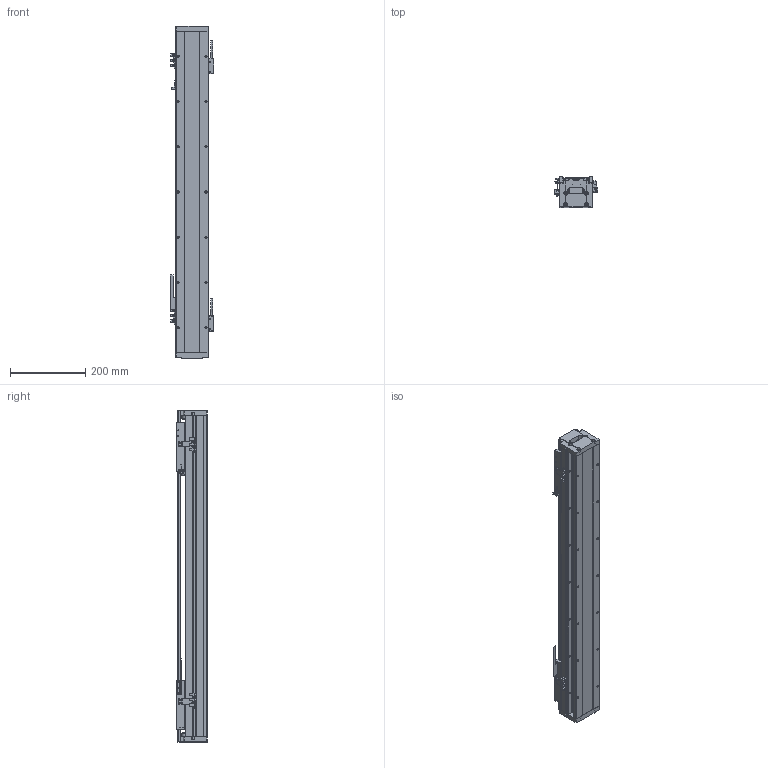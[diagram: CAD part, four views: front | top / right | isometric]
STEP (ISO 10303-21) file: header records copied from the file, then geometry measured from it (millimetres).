
FILE_DESCRIPTION (( 'STEP AP214' ), '1' );
FILE_NAME ('STC086-A-P-0682-2F105-MB-010-0.3.STEP', '2023-05-11T02:49:45', ( '' ), ( '' ), 'SwSTEP 2.0', 'SolidWorks 2018', '' );
FILE_SCHEMA (( 'AUTOMOTIVE_DESIGN' ));
Length unit declared in the file: millimetre
Products named in the file (62): LMD-2-R001-V5-L0.3-C0-F00（磁栅编码器）; STK0095-001（多动子感应片）; SKT0112-02（线缆固定件）; STK0066-001（086端盖）; STK0086-001（086读头固定块）; 賑輸SRS12M; SE040隅赽; STK0112-01（感应片）(默认); 086-SE1-040-S賑怢; SF-202NA-W（光电开关）; HC-U-02-Lxxx棠掑喜; SL-205NA-W（光电开关）; 蝶菜17x14x10; STK013-01（磁栅压块）; 086-Lxxxx菁釱; STK080-F105賑怢蚾饜极; 086-Lxxxx裔啣; 絳寢SRS12M+xxxxL-G10; STK080-F105賑怢蚾饜极-1; STC086-A-P-0682-2F105-MB-010-0.3
Assembly tree (44 placements, depth 3):
  LMD-2-R001-V5-L0.3-C0-F00（磁栅编码器）
  STK0066-001（086端盖）
  賑輸SRS12M
  SE040隅赽
  STK0112-01（感应片）(默认)
Bounding box: 115.7 x 81 x 880 mm (x, y, z)
Volume: 3129866.2 mm3; surface area: 972753.1 mm2
Topology: 42 solids, 42 shells, 3243 faces, 8812 edges, 5594 vertices
Faces by surface type: plane 1656, cylinder 1244, cone 289, torus 24, bspline 22, sphere 8
Entity records: 53562 total; most frequent: CARTESIAN_POINT 11003, ORIENTED_EDGE 8634, DIRECTION 8445, EDGE_CURVE 4317, AXIS2_PLACEMENT_3D 2869, VERTEX_POINT 2821, VECTOR 2707, LINE 2707
